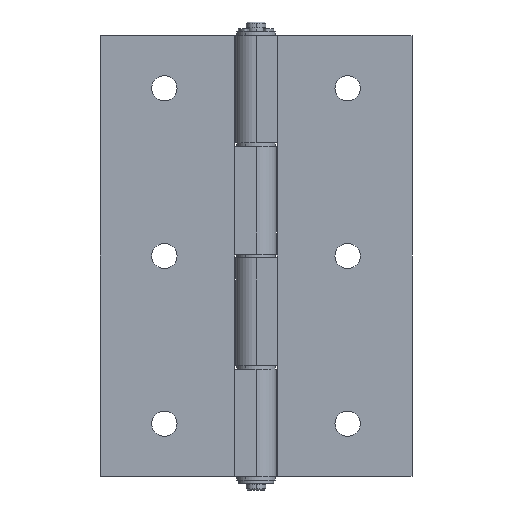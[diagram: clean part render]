
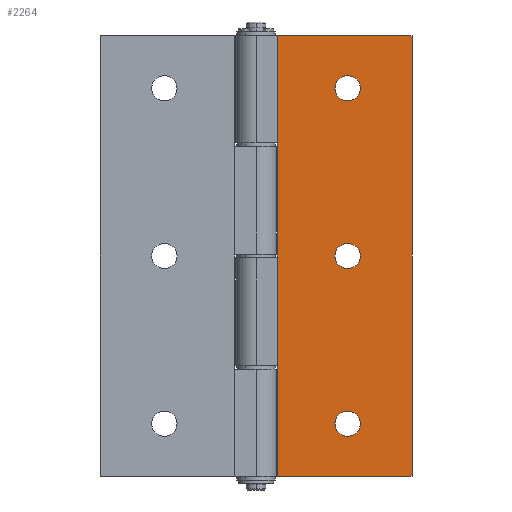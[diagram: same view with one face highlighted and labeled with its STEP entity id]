
A CAD part, front view. The second image highlights one B-rep face of the part: STEP entity #2264.
In plain terms, the highlighted planar face has unit normal (0, -1, 0).
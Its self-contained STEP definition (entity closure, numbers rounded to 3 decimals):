
#16 = CARTESIAN_POINT ( 'NONE',  ( 23.5, -5.75, 3.25 ) ) ;
#47 = EDGE_CURVE ( 'NONE', #3026, #1340, #2571, .T. ) ;
#67 = CARTESIAN_POINT ( 'NONE',  ( 5.5, -5.75, 56.5 ) ) ;
#74 = CARTESIAN_POINT ( 'NONE',  ( 5.5, -5.75, 56.5 ) ) ;
#102 = DIRECTION ( 'NONE',  ( 0., 0., 1. ) ) ;
#255 = ORIENTED_EDGE ( 'NONE', *, *, #981, .T. ) ;
#290 = EDGE_CURVE ( 'NONE', #2059, #2404, #1589, .T. ) ;
#291 = CARTESIAN_POINT ( 'NONE',  ( 40., -5.75, -56.5 ) ) ;
#339 = ORIENTED_EDGE ( 'NONE', *, *, #47, .T. ) ;
#385 = DIRECTION ( 'NONE',  ( 0., 0., 1. ) ) ;
#410 = LINE ( 'NONE', #2004, #1565 ) ;
#445 = EDGE_CURVE ( 'NONE', #2059, #1585, #1860, .T. ) ;
#469 = DIRECTION ( 'NONE',  ( 0., 0., 1. ) ) ;
#558 = CARTESIAN_POINT ( 'NONE',  ( 23.5, -5.75, -43. ) ) ;
#577 = ORIENTED_EDGE ( 'NONE', *, *, #2946, .T. ) ;
#602 = AXIS2_PLACEMENT_3D ( 'NONE', #1843, #1673, #469 ) ;
#636 = VERTEX_POINT ( 'NONE', #993 ) ;
#643 = LINE ( 'NONE', #1442, #3210 ) ;
#651 = ORIENTED_EDGE ( 'NONE', *, *, #445, .T. ) ;
#685 = CIRCLE ( 'NONE', #2115, 3.25 ) ;
#711 = VECTOR ( 'NONE', #1804, 1000. ) ;
#728 = FACE_BOUND ( 'NONE', #975, .T. ) ;
#745 = CARTESIAN_POINT ( 'NONE',  ( 23.5, -5.75, 39.75 ) ) ;
#830 = CIRCLE ( 'NONE', #2244, 3.25 ) ;
#866 = VERTEX_POINT ( 'NONE', #745 ) ;
#882 = CARTESIAN_POINT ( 'NONE',  ( 23.5, -5.75, 43. ) ) ;
#903 = CARTESIAN_POINT ( 'NONE',  ( 5.5, -5.75, 56.5 ) ) ;
#916 = ORIENTED_EDGE ( 'NONE', *, *, #1315, .T. ) ;
#975 = EDGE_LOOP ( 'NONE', ( #991, #577 ) ) ;
#981 = EDGE_CURVE ( 'NONE', #636, #2481, #1325, .T. ) ;
#991 = ORIENTED_EDGE ( 'NONE', *, *, #1027, .T. ) ;
#993 = CARTESIAN_POINT ( 'NONE',  ( 23.5, -5.75, -39.75 ) ) ;
#1027 = EDGE_CURVE ( 'NONE', #2981, #866, #685, .T. ) ;
#1055 = EDGE_LOOP ( 'NONE', ( #255, #916 ) ) ;
#1105 = PLANE ( 'NONE',  #1485 ) ;
#1188 = CARTESIAN_POINT ( 'NONE',  ( 5.5, -5.75, -56.5 ) ) ;
#1225 = ORIENTED_EDGE ( 'NONE', *, *, #1713, .T. ) ;
#1310 = DIRECTION ( 'NONE',  ( 0., 1., 0. ) ) ;
#1315 = EDGE_CURVE ( 'NONE', #2481, #636, #1610, .T. ) ;
#1325 = CIRCLE ( 'NONE', #1807, 3.25 ) ;
#1340 = VERTEX_POINT ( 'NONE', #16 ) ;
#1345 = EDGE_LOOP ( 'NONE', ( #1568, #339 ) ) ;
#1367 = FACE_BOUND ( 'NONE', #1055, .T. ) ;
#1381 = CIRCLE ( 'NONE', #1557, 3.25 ) ;
#1397 = DIRECTION ( 'NONE',  ( 0., 0., 1. ) ) ;
#1442 = CARTESIAN_POINT ( 'NONE',  ( 40., -5.75, 56.5 ) ) ;
#1477 = DIRECTION ( 'NONE',  ( 0., 0., -1. ) ) ;
#1485 = AXIS2_PLACEMENT_3D ( 'NONE', #67, #2248, #1499 ) ;
#1499 = DIRECTION ( 'NONE',  ( -1., 0., 0. ) ) ;
#1557 = AXIS2_PLACEMENT_3D ( 'NONE', #2785, #1310, #3053 ) ;
#1565 = VECTOR ( 'NONE', #2411, 1000. ) ;
#1568 = ORIENTED_EDGE ( 'NONE', *, *, #3220, .T. ) ;
#1577 = DIRECTION ( 'NONE',  ( 0., 1., 0. ) ) ;
#1585 = VERTEX_POINT ( 'NONE', #1188 ) ;
#1589 = LINE ( 'NONE', #903, #2826 ) ;
#1592 = CARTESIAN_POINT ( 'NONE',  ( 23.5, -5.75, 43. ) ) ;
#1600 = CARTESIAN_POINT ( 'NONE',  ( 23.5, -5.75, 46.25 ) ) ;
#1610 = CIRCLE ( 'NONE', #602, 3.25 ) ;
#1633 = DIRECTION ( 'NONE',  ( 1., 0., 0. ) ) ;
#1668 = CARTESIAN_POINT ( 'NONE',  ( 23.5, -5.75, 0. ) ) ;
#1673 = DIRECTION ( 'NONE',  ( 0., 1., 0. ) ) ;
#1713 = EDGE_CURVE ( 'NONE', #1585, #3022, #410, .T. ) ;
#1804 = DIRECTION ( 'NONE',  ( 0., 0., -1. ) ) ;
#1807 = AXIS2_PLACEMENT_3D ( 'NONE', #558, #2257, #2764 ) ;
#1842 = DIRECTION ( 'NONE',  ( 0., 1., 0. ) ) ;
#1843 = CARTESIAN_POINT ( 'NONE',  ( 23.5, -5.75, -43. ) ) ;
#1860 = LINE ( 'NONE', #74, #711 ) ;
#1943 = FACE_OUTER_BOUND ( 'NONE', #3209, .T. ) ;
#2004 = CARTESIAN_POINT ( 'NONE',  ( 5.5, -5.75, -56.5 ) ) ;
#2059 = VERTEX_POINT ( 'NONE', #2463 ) ;
#2115 = AXIS2_PLACEMENT_3D ( 'NONE', #1592, #1842, #102 ) ;
#2157 = AXIS2_PLACEMENT_3D ( 'NONE', #1668, #2916, #385 ) ;
#2244 = AXIS2_PLACEMENT_3D ( 'NONE', #882, #1577, #1397 ) ;
#2248 = DIRECTION ( 'NONE',  ( 0., 1., 0. ) ) ;
#2257 = DIRECTION ( 'NONE',  ( 0., 1., 0. ) ) ;
#2264 = ADVANCED_FACE ( 'NONE', ( #1367, #2596, #728, #1943 ), #1105, .F. ) ;
#2404 = VERTEX_POINT ( 'NONE', #2979 ) ;
#2411 = DIRECTION ( 'NONE',  ( 1., 0., 0. ) ) ;
#2463 = CARTESIAN_POINT ( 'NONE',  ( 5.5, -5.75, 56.5 ) ) ;
#2481 = VERTEX_POINT ( 'NONE', #2890 ) ;
#2521 = ORIENTED_EDGE ( 'NONE', *, *, #2758, .F. ) ;
#2571 = CIRCLE ( 'NONE', #2157, 3.25 ) ;
#2596 = FACE_BOUND ( 'NONE', #1345, .T. ) ;
#2758 = EDGE_CURVE ( 'NONE', #2404, #3022, #643, .T. ) ;
#2764 = DIRECTION ( 'NONE',  ( 0., 0., 1. ) ) ;
#2785 = CARTESIAN_POINT ( 'NONE',  ( 23.5, -5.75, 0. ) ) ;
#2826 = VECTOR ( 'NONE', #1633, 1000. ) ;
#2890 = CARTESIAN_POINT ( 'NONE',  ( 23.5, -5.75, -46.25 ) ) ;
#2916 = DIRECTION ( 'NONE',  ( 0., 1., 0. ) ) ;
#2946 = EDGE_CURVE ( 'NONE', #866, #2981, #830, .T. ) ;
#2979 = CARTESIAN_POINT ( 'NONE',  ( 40., -5.75, 56.5 ) ) ;
#2981 = VERTEX_POINT ( 'NONE', #1600 ) ;
#3022 = VERTEX_POINT ( 'NONE', #291 ) ;
#3026 = VERTEX_POINT ( 'NONE', #3155 ) ;
#3053 = DIRECTION ( 'NONE',  ( 0., 0., 1. ) ) ;
#3155 = CARTESIAN_POINT ( 'NONE',  ( 23.5, -5.75, -3.25 ) ) ;
#3209 = EDGE_LOOP ( 'NONE', ( #1225, #2521, #3219, #651 ) ) ;
#3210 = VECTOR ( 'NONE', #1477, 1000. ) ;
#3219 = ORIENTED_EDGE ( 'NONE', *, *, #290, .F. ) ;
#3220 = EDGE_CURVE ( 'NONE', #1340, #3026, #1381, .T. ) ;
